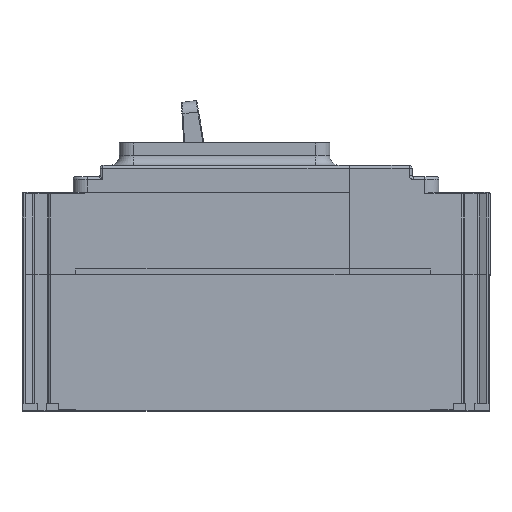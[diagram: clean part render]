
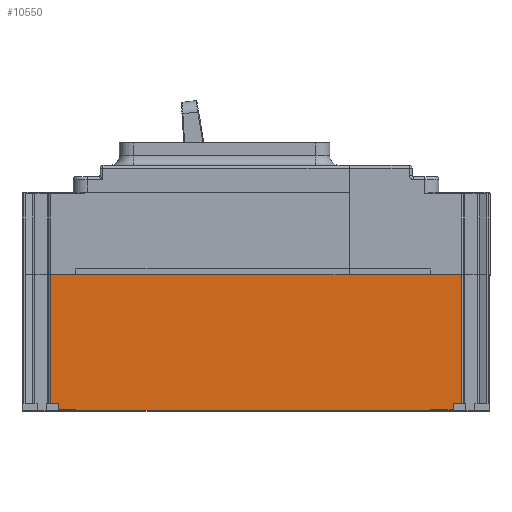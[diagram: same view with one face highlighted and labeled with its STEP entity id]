
A CAD part, top view. The second image highlights one B-rep face of the part: STEP entity #10550.
In plain terms, the highlighted planar face has unit normal (0, 0, 1).
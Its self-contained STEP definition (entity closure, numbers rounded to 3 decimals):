
#416=DIRECTION('',(1.,0.,0.));
#417=VECTOR('',#416,6.);
#418=CARTESIAN_POINT('',(-50.742,-21.153,52.5));
#419=LINE('',#418,#417);
#479=DIRECTION('',(1.,0.,0.));
#480=VECTOR('',#479,125.);
#481=CARTESIAN_POINT('',(-44.742,-21.653,52.5));
#482=LINE('',#481,#480);
#834=DIRECTION('',(1.,0.,0.));
#835=VECTOR('',#834,3.);
#836=CARTESIAN_POINT('',(-53.742,-19.153,52.5));
#837=LINE('',#836,#835);
#1198=DIRECTION('',(1.,0.,0.));
#1199=VECTOR('',#1198,125.);
#1200=CARTESIAN_POINT('',(-44.742,28.347,52.5));
#1201=LINE('',#1200,#1199);
#1423=DIRECTION('',(0.,-1.,0.));
#1424=VECTOR('',#1423,0.5);
#1425=CARTESIAN_POINT('',(80.258,-21.153,52.5));
#1426=LINE('',#1425,#1424);
#1443=DIRECTION('',(0.,-1.,0.));
#1444=VECTOR('',#1443,2.);
#1445=CARTESIAN_POINT('',(80.258,28.347,52.5));
#1446=LINE('',#1445,#1444);
#1520=DIRECTION('',(1.,0.,0.));
#1521=VECTOR('',#1520,8.);
#1522=CARTESIAN_POINT('',(80.258,-21.153,52.5));
#1523=LINE('',#1522,#1521);
#1528=DIRECTION('',(0.,-1.,0.));
#1529=VECTOR('',#1528,0.5);
#1530=CARTESIAN_POINT('',(-44.742,-21.153,52.5));
#1531=LINE('',#1530,#1529);
#1532=DIRECTION('',(0.,1.,0.));
#1533=VECTOR('',#1532,2.);
#1534=CARTESIAN_POINT('',(-50.742,-21.153,52.5));
#1535=LINE('',#1534,#1533);
#1536=DIRECTION('',(0.,-1.,0.));
#1537=VECTOR('',#1536,2.);
#1538=CARTESIAN_POINT('',(-44.742,28.347,52.5));
#1539=LINE('',#1538,#1537);
#1540=DIRECTION('',(0.,-1.,0.));
#1541=VECTOR('',#1540,2.);
#1542=CARTESIAN_POINT('',(88.258,-19.153,52.5));
#1543=LINE('',#1542,#1541);
#3418=DIRECTION('',(1.,0.,0.));
#3419=VECTOR('',#3418,3.);
#3420=CARTESIAN_POINT('',(88.258,-19.153,52.5));
#3421=LINE('',#3420,#3419);
#3791=DIRECTION('',(-1.,0.,0.));
#3792=VECTOR('',#3791,11.);
#3793=CARTESIAN_POINT('',(91.258,26.347,52.5));
#3794=LINE('',#3793,#3792);
#3836=DIRECTION('',(-1.,0.,0.));
#3837=VECTOR('',#3836,9.);
#3838=CARTESIAN_POINT('',(-44.742,26.347,52.5));
#3839=LINE('',#3838,#3837);
#6083=DIRECTION('',(0.,1.,0.));
#6084=VECTOR('',#6083,45.5);
#6085=CARTESIAN_POINT('',(91.258,-19.153,52.5));
#6086=LINE('',#6085,#6084);
#6155=DIRECTION('',(0.,-1.,0.));
#6156=VECTOR('',#6155,45.5);
#6157=CARTESIAN_POINT('',(-53.742,26.347,52.5));
#6158=LINE('',#6157,#6156);
#7047=CARTESIAN_POINT('',(-53.742,-19.153,52.5));
#7048=VERTEX_POINT('',#7047);
#7049=CARTESIAN_POINT('',(-50.742,-19.153,52.5));
#7050=VERTEX_POINT('',#7049);
#7175=CARTESIAN_POINT('',(91.258,26.347,52.5));
#7176=VERTEX_POINT('',#7175);
#7177=CARTESIAN_POINT('',(-53.742,26.347,52.5));
#7179=VERTEX_POINT('',#7177);
#7515=CARTESIAN_POINT('',(-50.742,-21.153,52.5));
#7516=VERTEX_POINT('',#7515);
#7517=CARTESIAN_POINT('',(91.258,-19.153,52.5));
#7518=VERTEX_POINT('',#7517);
#7519=CARTESIAN_POINT('',(88.258,-19.153,52.5));
#7520=VERTEX_POINT('',#7519);
#7521=CARTESIAN_POINT('',(88.258,-21.153,52.5));
#7522=VERTEX_POINT('',#7521);
#8499=CARTESIAN_POINT('',(-44.742,28.347,52.5));
#8500=CARTESIAN_POINT('',(80.258,28.347,52.5));
#8501=VERTEX_POINT('',#8499);
#8502=VERTEX_POINT('',#8500);
#8507=CARTESIAN_POINT('',(-44.742,-21.653,52.5));
#8508=CARTESIAN_POINT('',(80.258,-21.653,52.5));
#8509=VERTEX_POINT('',#8507);
#8510=VERTEX_POINT('',#8508);
#8515=CARTESIAN_POINT('',(80.258,26.347,52.5));
#8517=VERTEX_POINT('',#8515);
#8523=CARTESIAN_POINT('',(-44.742,26.347,52.5));
#8525=VERTEX_POINT('',#8523);
#8534=CARTESIAN_POINT('',(80.258,-21.153,52.5));
#8536=VERTEX_POINT('',#8534);
#8595=CARTESIAN_POINT('',(-44.742,-21.153,52.5));
#8597=VERTEX_POINT('',#8595);
#10520=CARTESIAN_POINT('',(109.508,-24.053,52.5));
#10521=DIRECTION('',(0.,0.,-1.));
#10522=DIRECTION('',(-1.,0.,0.));
#10523=AXIS2_PLACEMENT_3D('',#10520,#10521,#10522);
#10524=PLANE('',#10523);
#10525=ORIENTED_EDGE('',*,*,#10512,.F.);
#10526=ORIENTED_EDGE('',*,*,#10347,.T.);
#10527=ORIENTED_EDGE('',*,*,#9566,.F.);
#10528=ORIENTED_EDGE('',*,*,#9340,.F.);
#10529=ORIENTED_EDGE('',*,*,#9524,.F.);
#10531=ORIENTED_EDGE('',*,*,#10530,.T.);
#10532=ORIENTED_EDGE('',*,*,#9835,.F.);
#10534=ORIENTED_EDGE('',*,*,#10533,.F.);
#10536=ORIENTED_EDGE('',*,*,#10535,.F.);
#10537=ORIENTED_EDGE('',*,*,#9388,.F.);
#10538=ORIENTED_EDGE('',*,*,#10162,.T.);
#10539=ORIENTED_EDGE('',*,*,#10425,.T.);
#10541=ORIENTED_EDGE('',*,*,#10540,.F.);
#10543=ORIENTED_EDGE('',*,*,#10542,.F.);
#10545=ORIENTED_EDGE('',*,*,#10544,.F.);
#10547=ORIENTED_EDGE('',*,*,#10546,.T.);
#10548=EDGE_LOOP('',(#10525,#10526,#10527,#10528,#10529,#10531,#10532,#10534,
#10536,#10537,#10538,#10539,#10541,#10543,#10545,#10547));
#10549=FACE_OUTER_BOUND('',#10548,.F.);
#10550=ADVANCED_FACE('',(#10549),#10524,.F.);
#9340=EDGE_CURVE('',#8597,#8509,#1531,.T.);
#9388=EDGE_CURVE('',#8501,#8525,#1539,.T.);
#9524=EDGE_CURVE('',#7516,#8597,#419,.T.);
#9566=EDGE_CURVE('',#8509,#8510,#482,.T.);
#9835=EDGE_CURVE('',#7048,#7050,#837,.T.);
#10162=EDGE_CURVE('',#8501,#8502,#1201,.T.);
#10347=EDGE_CURVE('',#8536,#8510,#1426,.T.);
#10425=EDGE_CURVE('',#8502,#8517,#1446,.T.);
#10512=EDGE_CURVE('',#8536,#7522,#1523,.T.);
#10530=EDGE_CURVE('',#7516,#7050,#1535,.T.);
#10533=EDGE_CURVE('',#7179,#7048,#6158,.T.);
#10535=EDGE_CURVE('',#8525,#7179,#3839,.T.);
#10540=EDGE_CURVE('',#7176,#8517,#3794,.T.);
#10542=EDGE_CURVE('',#7518,#7176,#6086,.T.);
#10544=EDGE_CURVE('',#7520,#7518,#3421,.T.);
#10546=EDGE_CURVE('',#7520,#7522,#1543,.T.);
